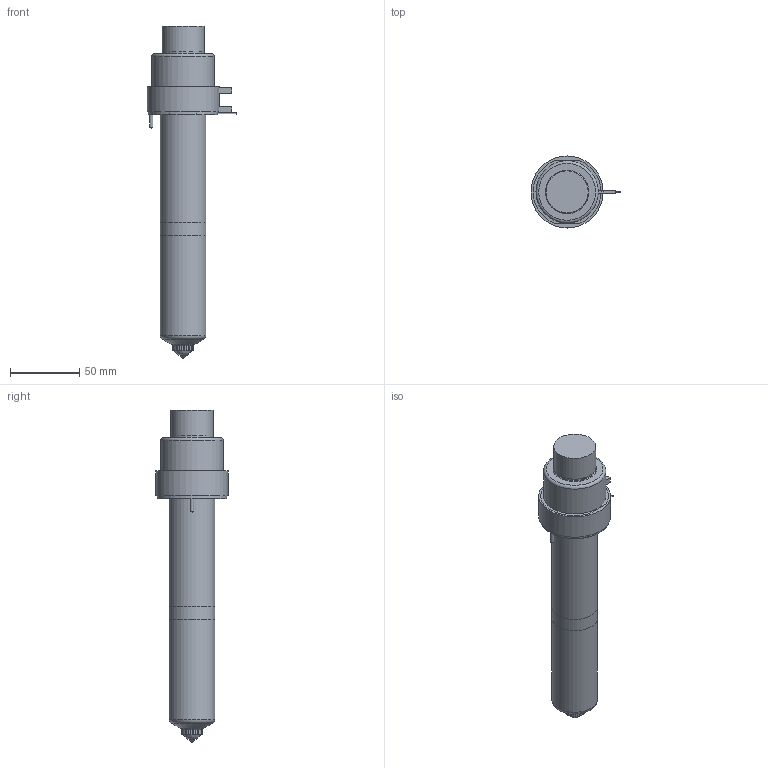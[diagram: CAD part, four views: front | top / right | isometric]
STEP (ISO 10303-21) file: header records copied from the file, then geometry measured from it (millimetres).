
FILE_DESCRIPTION(/* description */ (''),/* implementation_level */ '2;1');
FILE_NAME(/* name */ 'SXTT-SXIT19175_200C_b',/* time_stamp */ '2007-01-24T17:20:41+13:00',/* author */ (''),/* organization */ (''),/* preprocessor_version */ 'ST-DEVELOPER v9',/* originating_system */ 'UGS - NX 4.0',/* authorisation */ '');
FILE_SCHEMA (('CONFIG_CONTROL_DESIGN'));
Length unit declared in the file: millimetre
Products named in the file (1): SXTT-SXIT19175_200C_b
Bounding box: 64.85 x 52 x 239.66 mm (x, y, z)
Volume: 414113.4 mm3; surface area: 59479.5 mm2
Topology: 7 solids, 7 shells, 96 faces, 188 edges, 120 vertices
Faces by surface type: plane 45, cylinder 28, cone 11, torus 10, bspline 2
Full cylindrical faces by diameter (mm): 1 x3, 1.2 x1, 2.5 x2, 8 x1, 14.61 x1, 15.01 x2, 18.3 x1, 28.6 x1, 30 x1, 30.4 x1, 33 x2, 38.1 x1, 45 x1, 50 x1, 52 x1
Entity records: 2353 total; most frequent: CARTESIAN_POINT 477, DIRECTION 396, ORIENTED_EDGE 276, AXIS2_PLACEMENT_3D 173, EDGE_LOOP 150, EDGE_CURVE 138, VERTEX_POINT 111, ADVANCED_FACE 96
